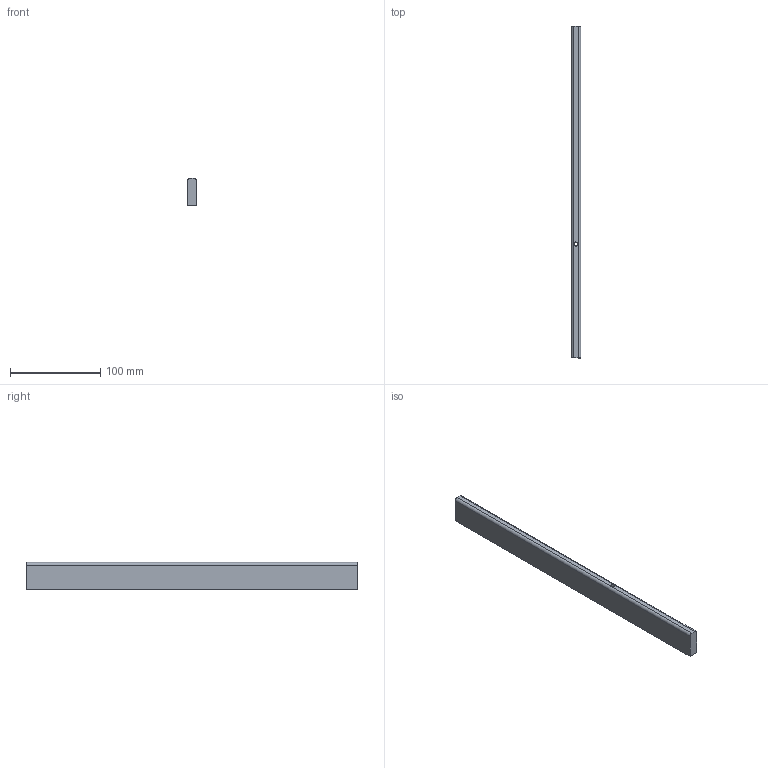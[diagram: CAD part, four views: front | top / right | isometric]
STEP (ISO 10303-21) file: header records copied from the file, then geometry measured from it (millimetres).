
FILE_DESCRIPTION (( 'STEP AP214' ), '1' );
FILE_NAME ('_Seitenreling_SP60702400_RL367,1.step', '2010-09-06T14:52:02', ( 'grass' ), ( '' ), 'SwSTEP 2.0', 'SolidWorks 2010', '' );
FILE_SCHEMA (( 'AUTOMOTIVE_DESIGN' ));
Length unit declared in the file: millimetre
Products named in the file (1): _Seitenreling_SP60702400_RL367,1
Bounding box: 10.5 x 367.1 x 30 mm (x, y, z)
Volume: 113299.4 mm3; surface area: 29950.4 mm2
Topology: 1 solids, 1 shells, 14 faces, 34 edges, 22 vertices
Faces by surface type: plane 8, cylinder 6
Entity records: 454 total; most frequent: DIRECTION 78, CARTESIAN_POINT 71, ORIENTED_EDGE 68, EDGE_CURVE 34, AXIS2_PLACEMENT_3D 29, VERTEX_POINT 22, LINE 20, VECTOR 20
